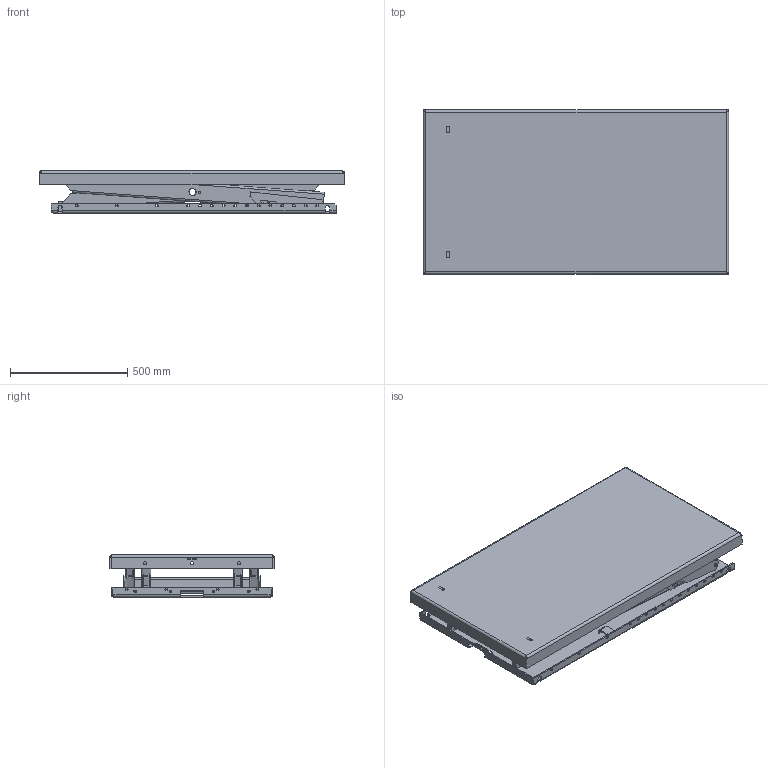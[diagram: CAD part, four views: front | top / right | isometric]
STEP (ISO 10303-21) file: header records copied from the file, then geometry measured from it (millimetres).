
FILE_DESCRIPTION(/* description */ ('TL 1000 (1300x700)'),/* implementation_level */ '2;1');
FILE_NAME(/* name */ 'C:\Autodesk_VaultWork\Ritningar\tmp\34964_Collapsed.stp',/* time_stamp */ '2018-04-25T13:05:07+02:00',/* author */ ('johso'),/* organization */ (''),/* preprocessor_version */ 'ST-DEVELOPER v16.5',/* originating_system */ 'Autodesk Inventor 2017',/* authorisation */ '');
FILE_SCHEMA (('AUTOMOTIVE_DESIGN { 1 0 10303 214 3 1 1 }'));
Length unit declared in the file: millimetre
Products named in the file (16): 34964.tmp; 611364; 611365; 44681; 34977; 32903; 82154 - 490; 34827; 34815; 34816; 34819; 34818; 45258; 42394; 83212; 32954
Assembly tree (26 placements, depth 4):
  34964.tmp
    611364
      611365
      45258  x2
      44681  x2
    34977
      32903
        82154 - 490
        34827  x2
      34815
        34816  x2
    34819
      34818
      45258  x2
      42394  x2
      83212  x4
    32954  x2
Bounding box: 1300 x 700 x 180 mm (x, y, z)
Volume: 13196572.5 mm3; surface area: 5642565.5 mm2
Topology: 21 solids, 21 shells, 1095 faces, 3044 edges, 1991 vertices
Faces by surface type: plane 548, cylinder 473, bspline 46, cone 28
Full cylindrical faces by diameter (mm): 5.55 x2, 6.8 x8, 7.4 x6, 8 x4, 10 x4, 10.2 x16, 10.5 x4, 11.63 x4, 12.5 x6, 13 x10, 17 x2, 20.1 x4, 30.2 x4, 42.8 x4
Entity records: 28268 total; most frequent: CARTESIAN_POINT 6176, ORIENTED_EDGE 4520, DIRECTION 4439, EDGE_CURVE 2260, VERTEX_POINT 1511, AXIS2_PLACEMENT_3D 1504, LINE 1431, VECTOR 1431
